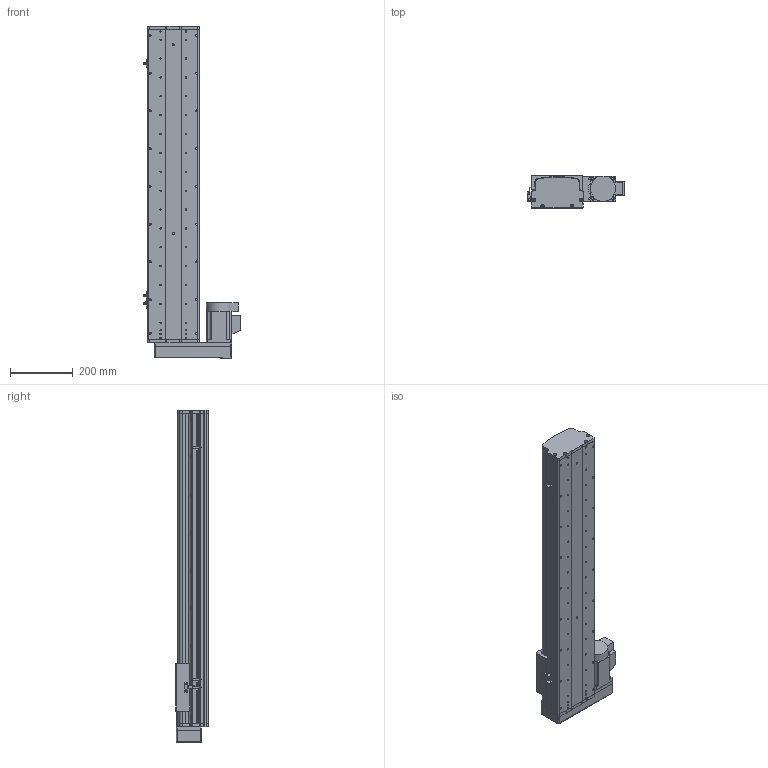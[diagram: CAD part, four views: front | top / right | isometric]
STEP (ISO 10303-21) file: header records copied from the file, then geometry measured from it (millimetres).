
FILE_DESCRIPTION (( 'STEP AP214' ), '1' );
FILE_NAME ('KSD165S-S750-ML-CM.STEP', '2017-10-17T08:57:18', ( '微软用户' ), ( '微软中国' ), 'SwSTEP 2.0', 'SolidWorks 2014', '' );
FILE_SCHEMA (( 'AUTOMOTIVE_DESIGN' ));
Length unit declared in the file: millimetre
Products named in the file (16): 覜茼え68遵圉猾敕; U倰嫖萇EEㄜSX672; 拸秶雄ん750W侜督萇儂; KSD165模组-丝杆上下左右折前端板; HTPA26S5M250-A-H8丝杆用(内径14）; HTPA26S5M250-A-H8 750W萇儂蚚; 165宽模组马达安装板连板左右折丝杆; 165宽模组保护罩左右折; KSD165模组-防尘盖1-750行程-最新版; KSD165模组底板-750行程-最新; KSD165耀郪-佪裝-滅袉菜-3 -; KSD165耀郪-佪裝-滅袉菜-1; U倰嫖萇假蚾璃; KSD165耀郪-綴傷啣1; KSD165模组-丝杆滑动座-最新版; KSD165S-S750-ML-CM
Assembly tree (19 placements, depth 2):
  KSD165S-S750-ML-CM
    KSD165模组-丝杆滑动座-最新版
    KSD165耀郪-綴傷啣1
    U倰嫖萇假蚾璃  x3
    KSD165耀郪-佪裝-滅袉菜-1
    KSD165耀郪-佪裝-滅袉菜-3 -
    KSD165模组底板-750行程-最新
    KSD165模组-防尘盖1-750行程-最新版
    165宽模组保护罩左右折
    165宽模组马达安装板连板左右折丝杆
    HTPA26S5M250-A-H8 750W萇儂蚚
    HTPA26S5M250-A-H8丝杆用(内径14）
    KSD165模组-丝杆上下左右折前端板
    拸秶雄ん750W侜督萇儂
    U倰嫖萇EEㄜSX672  x3
    覜茼え68遵圉猾敕
Bounding box: 311.2 x 104 x 1055.5 mm (x, y, z)
Volume: 6740679.5 mm3; surface area: 1563578.8 mm2
Topology: 20 solids, 20 shells, 1827 faces, 5186 edges, 3391 vertices
Faces by surface type: cylinder 1183, plane 543, cone 101
Entity records: 60043 total; most frequent: CARTESIAN_POINT 12535, DIRECTION 9685, ORIENTED_EDGE 9060, EDGE_CURVE 4530, AXIS2_PLACEMENT_3D 3797, VERTEX_POINT 2983, CIRCLE 2168, VECTOR 2091
